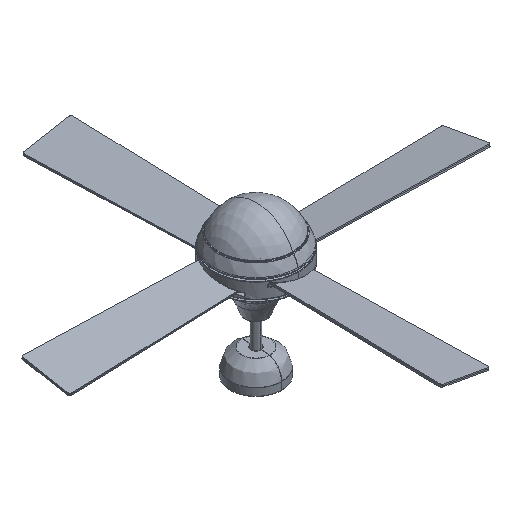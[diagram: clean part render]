
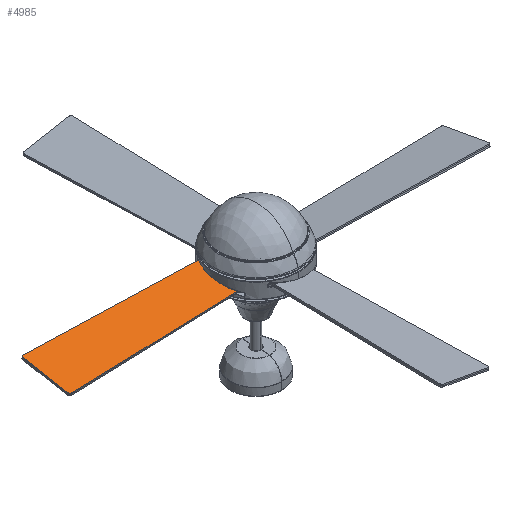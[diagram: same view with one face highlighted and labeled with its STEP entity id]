
A CAD part, isometric view. The second image highlights one B-rep face of the part: STEP entity #4985.
In plain terms, the highlighted planar face has unit normal (0, -0.179, 0.984).
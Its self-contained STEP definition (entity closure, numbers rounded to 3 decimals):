
#407=PLANE('',#5361);
#567=FACE_OUTER_BOUND('',#887,.T.);
#887=EDGE_LOOP('',(#3464,#3465,#3466,#3467,#3468,#3469,#3470,#3471));
#1222=LINE('',#7493,#1530);
#1224=LINE('',#7496,#1532);
#1226=LINE('',#7499,#1534);
#1530=VECTOR('',#6057,304.8);
#1532=VECTOR('',#6061,304.8);
#1534=VECTOR('',#6065,304.8);
#1818=CIRCLE('',#5343,7.801);
#1820=CIRCLE('',#5346,82.705);
#1822=CIRCLE('',#5349,7.652);
#1824=CIRCLE('',#5352,5.);
#1826=CIRCLE('',#5355,5.);
#2062=VERTEX_POINT('',#7454);
#2063=VERTEX_POINT('',#7455);
#2066=VERTEX_POINT('',#7463);
#2068=VERTEX_POINT('',#7469);
#2070=VERTEX_POINT('',#7475);
#2071=VERTEX_POINT('',#7476);
#2074=VERTEX_POINT('',#7484);
#2075=VERTEX_POINT('',#7485);
#2566=EDGE_CURVE('',#2062,#2063,#1818,.T.);
#2570=EDGE_CURVE('',#2066,#2062,#1820,.T.);
#2573=EDGE_CURVE('',#2068,#2066,#1822,.T.);
#2576=EDGE_CURVE('',#2070,#2071,#1824,.T.);
#2580=EDGE_CURVE('',#2074,#2075,#1826,.T.);
#2584=EDGE_CURVE('',#2063,#2074,#1222,.T.);
#2586=EDGE_CURVE('',#2071,#2068,#1224,.T.);
#2588=EDGE_CURVE('',#2075,#2070,#1226,.T.);
#3464=ORIENTED_EDGE('',*,*,#2580,.T.);
#3465=ORIENTED_EDGE('',*,*,#2588,.T.);
#3466=ORIENTED_EDGE('',*,*,#2576,.T.);
#3467=ORIENTED_EDGE('',*,*,#2586,.T.);
#3468=ORIENTED_EDGE('',*,*,#2573,.T.);
#3469=ORIENTED_EDGE('',*,*,#2570,.T.);
#3470=ORIENTED_EDGE('',*,*,#2566,.T.);
#3471=ORIENTED_EDGE('',*,*,#2584,.T.);
#4985=ADVANCED_FACE('',(#567),#407,.T.);
#5343=AXIS2_PLACEMENT_3D('',#7456,#6019,#6020);
#5346=AXIS2_PLACEMENT_3D('',#7464,#6027,#6028);
#5349=AXIS2_PLACEMENT_3D('',#7470,#6034,#6035);
#5352=AXIS2_PLACEMENT_3D('',#7477,#6041,#6042);
#5355=AXIS2_PLACEMENT_3D('',#7486,#6049,#6050);
#5361=AXIS2_PLACEMENT_3D('',#7502,#6069,#6070);
#6019=DIRECTION('center_axis',(0.,-0.179,0.984));
#6020=DIRECTION('ref_axis',(1.,0.,0.));
#6027=DIRECTION('center_axis',(0.,0.179,-0.984));
#6028=DIRECTION('ref_axis',(1.,0.,0.));
#6034=DIRECTION('center_axis',(0.,-0.179,0.984));
#6035=DIRECTION('ref_axis',(1.,0.,0.));
#6041=DIRECTION('center_axis',(0.,-0.179,0.984));
#6042=DIRECTION('ref_axis',(1.,0.,0.));
#6049=DIRECTION('center_axis',(0.,-0.179,0.984));
#6050=DIRECTION('ref_axis',(1.,0.,0.));
#6057=DIRECTION('',(-1.,0.027,0.005));
#6061=DIRECTION('',(1.,0.027,0.005));
#6065=DIRECTION('',(0.,-0.984,-0.179));
#6069=DIRECTION('center_axis',(0.,-0.179,0.984));
#6070=DIRECTION('ref_axis',(0.,0.984,0.179));
#7454=CARTESIAN_POINT('',(-67.54,40.756,274.381));
#7455=CARTESIAN_POINT('',(-74.21,52.042,276.433));
#7456=CARTESIAN_POINT('Origin',(-74.422,44.37,275.038));
#7463=CARTESIAN_POINT('',(-67.532,-35.882,260.447));
#7464=CARTESIAN_POINT('Origin',(5.425,2.444,267.415));
#7469=CARTESIAN_POINT('',(-74.071,-46.953,258.434));
#7470=CARTESIAN_POINT('Origin',(-74.282,-39.428,259.802));
#7475=CARTESIAN_POINT('',(-535.,-54.427,257.075));
#7476=CARTESIAN_POINT('',(-529.862,-59.344,256.181));
#7477=CARTESIAN_POINT('Origin',(-530.,-54.427,257.075));
#7484=CARTESIAN_POINT('',(-529.864,64.233,278.649));
#7485=CARTESIAN_POINT('',(-535.,59.316,277.755));
#7486=CARTESIAN_POINT('Origin',(-530.,59.316,277.755));
#7493=CARTESIAN_POINT('',(-74.21,52.042,276.433));
#7496=CARTESIAN_POINT('',(-529.862,-59.344,256.181));
#7499=CARTESIAN_POINT('',(-535.,59.316,277.755));
#7502=CARTESIAN_POINT('Origin',(-525.,59.316,277.755));
